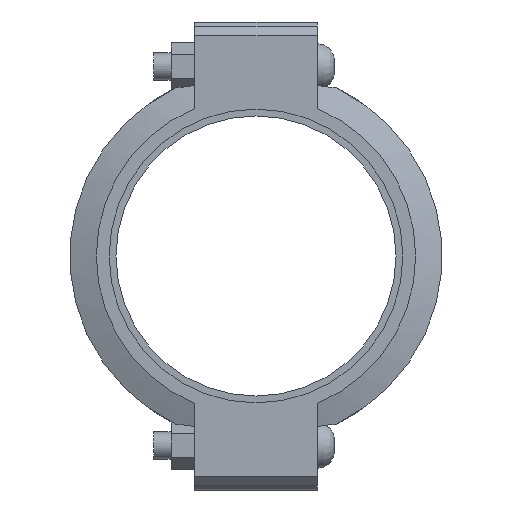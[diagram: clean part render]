
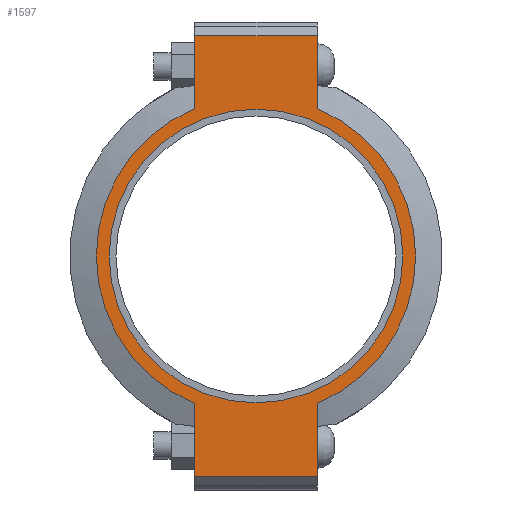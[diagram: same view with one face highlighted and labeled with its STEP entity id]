
A CAD part, left-side view. The second image highlights one B-rep face of the part: STEP entity #1597.
In plain terms, the highlighted planar face has unit normal (-1, 0, 0) as drawn and (0, 0, 1) by its records, which use the part's own axes.
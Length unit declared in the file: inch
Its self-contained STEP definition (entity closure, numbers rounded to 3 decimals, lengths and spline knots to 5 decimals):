
#168=LINE('',#2759,#257);
#179=LINE('',#2810,#268);
#185=LINE('',#2836,#274);
#187=LINE('',#2839,#276);
#188=LINE('',#2844,#277);
#189=LINE('',#2845,#278);
#257=VECTOR('',#2251,0.3937);
#268=VECTOR('',#2282,0.3937);
#274=VECTOR('',#2300,0.3937);
#276=VECTOR('',#2304,0.3937);
#277=VECTOR('',#2309,0.3937);
#278=VECTOR('',#2310,0.3937);
#340=FACE_BOUND('',#517,.T.);
#408=FACE_OUTER_BOUND('',#516,.T.);
#516=EDGE_LOOP('',(#1292,#1293,#1294,#1295,#1296,#1297,#1298,#1299));
#517=EDGE_LOOP('',(#1300));
#599=CIRCLE('',#1825,5.375);
#623=CIRCLE('',#1877,5.845);
#624=CIRCLE('',#1878,5.845);
#695=VERTEX_POINT('',#2585);
#736=VERTEX_POINT('',#2756);
#737=VERTEX_POINT('',#2758);
#754=VERTEX_POINT('',#2805);
#755=VERTEX_POINT('',#2809);
#762=VERTEX_POINT('',#2831);
#763=VERTEX_POINT('',#2835);
#764=VERTEX_POINT('',#2841);
#765=VERTEX_POINT('',#2843);
#859=EDGE_CURVE('',#695,#695,#599,.T.);
#916=EDGE_CURVE('',#737,#736,#168,.T.);
#937=EDGE_CURVE('',#755,#754,#179,.T.);
#948=EDGE_CURVE('',#763,#762,#185,.T.);
#950=EDGE_CURVE('',#763,#736,#187,.T.);
#951=EDGE_CURVE('',#762,#764,#623,.T.);
#952=EDGE_CURVE('',#764,#765,#188,.T.);
#953=EDGE_CURVE('',#755,#765,#189,.T.);
#954=EDGE_CURVE('',#754,#737,#624,.T.);
#1292=ORIENTED_EDGE('',*,*,#950,.F.);
#1293=ORIENTED_EDGE('',*,*,#948,.T.);
#1294=ORIENTED_EDGE('',*,*,#951,.T.);
#1295=ORIENTED_EDGE('',*,*,#952,.T.);
#1296=ORIENTED_EDGE('',*,*,#953,.F.);
#1297=ORIENTED_EDGE('',*,*,#937,.T.);
#1298=ORIENTED_EDGE('',*,*,#954,.T.);
#1299=ORIENTED_EDGE('',*,*,#916,.T.);
#1300=ORIENTED_EDGE('',*,*,#859,.T.);
#1437=PLANE('',#1876);
#1597=ADVANCED_FACE('',(#408,#340),#1437,.T.);
#1825=AXIS2_PLACEMENT_3D('',#2587,#2141,#2142);
#1876=AXIS2_PLACEMENT_3D('',#2840,#2305,#2306);
#1877=AXIS2_PLACEMENT_3D('',#2842,#2307,#2308);
#1878=AXIS2_PLACEMENT_3D('',#2846,#2311,#2312);
#2141=DIRECTION('center_axis',(0.,0.,-1.));
#2142=DIRECTION('ref_axis',(-1.,0.,0.));
#2251=DIRECTION('',(-1.,0.,0.));
#2282=DIRECTION('',(-1.,0.,0.));
#2300=DIRECTION('',(1.,0.,0.));
#2304=DIRECTION('',(0.,1.,0.));
#2305=DIRECTION('center_axis',(0.,0.,1.));
#2306=DIRECTION('ref_axis',(1.,0.,0.));
#2307=DIRECTION('center_axis',(0.,0.,1.));
#2308=DIRECTION('ref_axis',(-1.,0.,0.));
#2309=DIRECTION('',(1.,0.,0.));
#2310=DIRECTION('',(0.,-1.,0.));
#2311=DIRECTION('center_axis',(0.,0.,1.));
#2312=DIRECTION('ref_axis',(-1.,0.,0.));
#2585=CARTESIAN_POINT('',(5.375,0.,1.315));
#2587=CARTESIAN_POINT('Origin',(0.,0.,1.315));
#2756=CARTESIAN_POINT('',(-8.065,2.25,1.315));
#2758=CARTESIAN_POINT('',(-5.39458,2.25,1.315));
#2759=CARTESIAN_POINT('',(8.565,2.25,1.315));
#2805=CARTESIAN_POINT('',(5.39458,2.25,1.315));
#2809=CARTESIAN_POINT('',(8.065,2.25,1.315));
#2810=CARTESIAN_POINT('',(8.565,2.25,1.315));
#2831=CARTESIAN_POINT('',(-5.39458,-2.25,1.315));
#2835=CARTESIAN_POINT('',(-8.065,-2.25,1.315));
#2836=CARTESIAN_POINT('',(-8.565,-2.25,1.315));
#2839=CARTESIAN_POINT('',(-8.065,1.125,1.315));
#2840=CARTESIAN_POINT('Origin',(0.,0.,
1.315));
#2841=CARTESIAN_POINT('',(5.39458,-2.25,1.315));
#2842=CARTESIAN_POINT('Origin',(0.,0.,1.315));
#2843=CARTESIAN_POINT('',(8.065,-2.25,1.315));
#2844=CARTESIAN_POINT('',(-8.565,-2.25,1.315));
#2845=CARTESIAN_POINT('',(8.065,-1.125,1.315));
#2846=CARTESIAN_POINT('Origin',(0.,0.,1.315));
